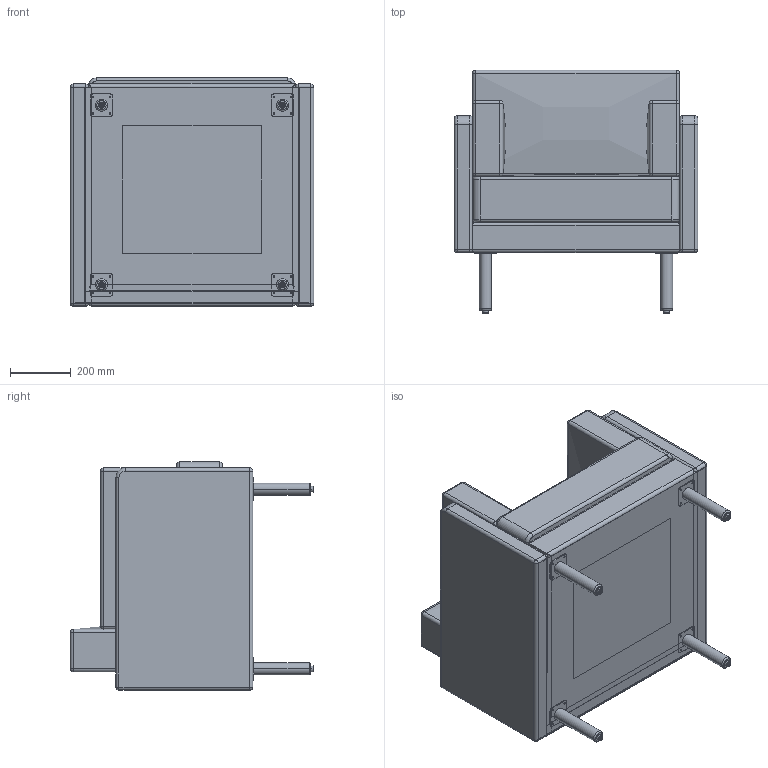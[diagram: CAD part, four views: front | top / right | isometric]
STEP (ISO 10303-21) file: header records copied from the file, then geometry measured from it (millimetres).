
FILE_DESCRIPTION (( 'STEP AP203' ), '1' );
FILE_NAME ('Edlyn Sofa W800 x D750 x H800.STEP', '2024-04-06T07:40:54', ( '' ), ( '' ), 'SwSTEP 2.0', 'SolidWorks 2023', '' );
FILE_SCHEMA (( 'CONFIG_CONTROL_DESIGN' ));
Length unit declared in the file: millimetre
Products named in the file (7): Edlyn Sofa Up 1; Edlyn Sofa Handrest 1; Edlyn Sofa W800 x D750 x H800; Edlyn Sofa Structure 1; Leg 1; Seat Cushion 1; Edlyn Sofa Backrest Cushion 1
Assembly tree (10 placements, depth 2):
  Edlyn Sofa W800 x D750 x H800
    Edlyn Sofa Structure 1
    Edlyn Sofa Up 1
    Seat Cushion 1
    Edlyn Sofa Backrest Cushion 1
    Edlyn Sofa Handrest 1  x2
    Leg 1  x4
Bounding box: 800 x 800 x 750 mm (x, y, z)
Volume: 264309687.2 mm3; surface area: 9628025.1 mm2
Topology: 48 solids, 48 shells, 552 faces, 1200 edges, 704 vertices
Faces by surface type: plane 288, cylinder 164, sphere 48, torus 32, cone 16, bspline 4
Entity records: 11549 total; most frequent: CARTESIAN_POINT 2021, DIRECTION 1864, ORIENTED_EDGE 1668, EDGE_CURVE 834, AXIS2_PLACEMENT_3D 625, LINE 614, VECTOR 614, VERTEX_POINT 506
